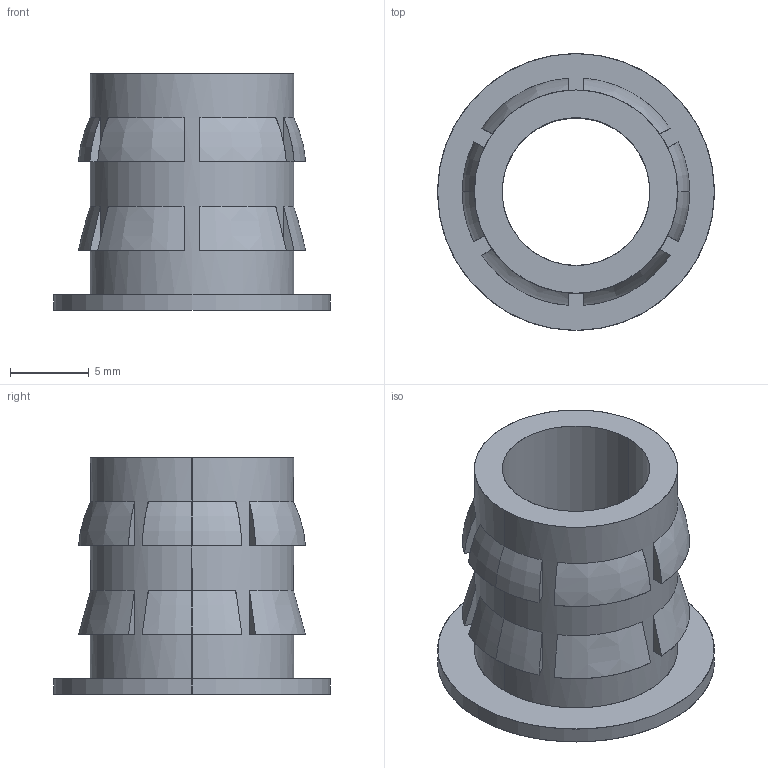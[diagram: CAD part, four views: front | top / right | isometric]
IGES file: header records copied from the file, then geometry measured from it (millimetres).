
Start section: SolidWorks IGES file using analytic representation for surfaces
Global section: file name: G:\thermofab project\INSERT\insert project\INSERT 3D\flanged insert 7(16)-20.IGS; native system: SolidWorks 2015; preprocessor: SolidWorks 2015; author: Administrator; date: 170809.170555; units: millimetre
Bounding box: 17.53 x 17.53 x 15 mm (x, y, z)
Surface area: 1493.1 mm2 (no closed solid volume)
Topology: 0 solids, 0 shells, 63 faces, 556 edges, 556 vertices
Faces by surface type: bspline 55, revolution 8
